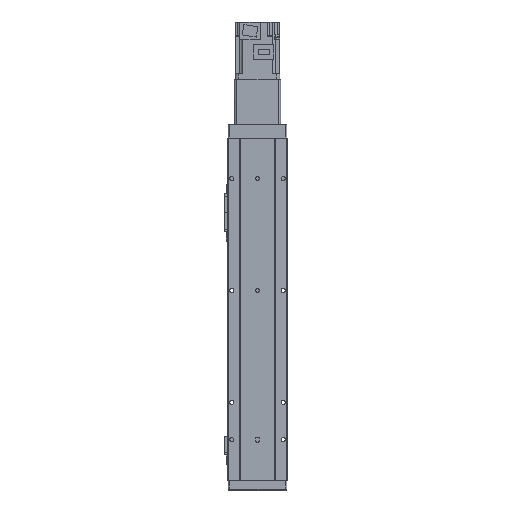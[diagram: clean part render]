
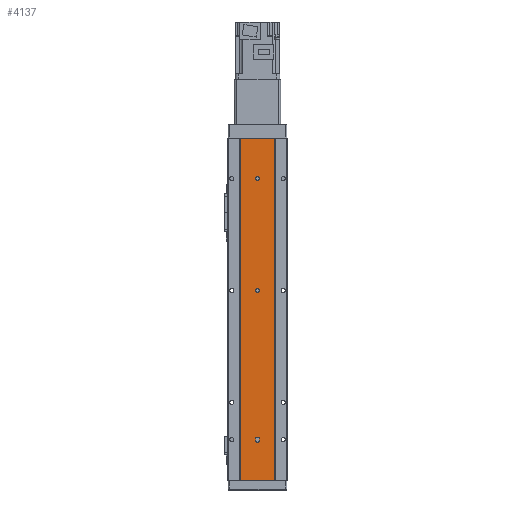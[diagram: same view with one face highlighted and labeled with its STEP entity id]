
A CAD part, front view. The second image highlights one B-rep face of the part: STEP entity #4137.
In plain terms, the highlighted planar face has unit normal (0, -1, 0).
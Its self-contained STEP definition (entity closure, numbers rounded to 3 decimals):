
#3084 = EDGE_CURVE ( 'NONE', #14005, #13973, #13460, .T. ) ;
#3087 = EDGE_CURVE ( 'NONE', #14118, #13993, #13498, .T. ) ;
#3096 = EDGE_CURVE ( 'NONE', #14130, #14128, #13491, .T. ) ;
#3098 = EDGE_CURVE ( 'NONE', #13973, #14224, #19480, .T. ) ;
#3108 = EDGE_CURVE ( 'NONE', #13993, #14005, #19520, .T. ) ;
#3117 = EDGE_CURVE ( 'NONE', #14340, #14397, #19475, .T. ) ;
#3118 = EDGE_CURVE ( 'NONE', #14346, #14376, #19462, .T. ) ;
#3132 = EDGE_CURVE ( 'NONE', #14183, #14129, #19434, .T. ) ;
#3211 = EDGE_CURVE ( 'NONE', #14128, #14130, #19670, .T. ) ;
#3226 = EDGE_CURVE ( 'NONE', #14224, #14118, #19744, .T. ) ;
#3297 = EDGE_CURVE ( 'NONE', #14129, #14183, #20034, .T. ) ;
#3447 = EDGE_CURVE ( 'NONE', #14397, #14376, #20463, .T. ) ;
#3466 = EDGE_CURVE ( 'NONE', #14340, #14346, #20508, .T. ) ;
#4137 = ADVANCED_FACE ( 'NONE', ( #18414, #18419, #18422, #18418 ), #10199, .T. ) ;
#5828 = DIRECTION ( 'NONE',  ( 1., 0., 0. ) ) ;
#5836 = DIRECTION ( 'NONE',  ( 0., -1., 0. ) ) ;
#5843 = CARTESIAN_POINT ( 'NONE',  ( 0., 0.5, -54.5 ) ) ;
#6481 = DIRECTION ( 'NONE',  ( 1., 0., 0. ) ) ;
#6484 = CARTESIAN_POINT ( 'NONE',  ( -23., 0.5, 0. ) ) ;
#6505 = CARTESIAN_POINT ( 'NONE',  ( -23., 0.5, -459. ) ) ;
#6547 = DIRECTION ( 'NONE',  ( 1., 0., 0. ) ) ;
#9222 = ORIENTED_EDGE ( 'NONE', *, *, #3108, .F. ) ;
#9233 = ORIENTED_EDGE ( 'NONE', *, *, #3297, .F. ) ;
#9239 = ORIENTED_EDGE ( 'NONE', *, *, #3447, .F. ) ;
#9250 = ORIENTED_EDGE ( 'NONE', *, *, #3096, .F. ) ;
#9261 = ORIENTED_EDGE ( 'NONE', *, *, #3098, .F. ) ;
#9266 = ORIENTED_EDGE ( 'NONE', *, *, #3226, .F. ) ;
#9279 = ORIENTED_EDGE ( 'NONE', *, *, #3211, .F. ) ;
#9329 = ORIENTED_EDGE ( 'NONE', *, *, #3118, .T. ) ;
#9332 = ORIENTED_EDGE ( 'NONE', *, *, #3084, .F. ) ;
#9361 = ORIENTED_EDGE ( 'NONE', *, *, #3132, .F. ) ;
#9440 = ORIENTED_EDGE ( 'NONE', *, *, #3466, .T. ) ;
#9446 = ORIENTED_EDGE ( 'NONE', *, *, #3087, .F. ) ;
#9457 = ORIENTED_EDGE ( 'NONE', *, *, #3117, .F. ) ;
#10167 = DIRECTION ( 'NONE',  ( 1., 0., 0. ) ) ;
#10175 = CARTESIAN_POINT ( 'NONE',  ( -23., 0.5, -459. ) ) ;
#10195 = DIRECTION ( 'NONE',  ( 0., -1., 0. ) ) ;
#10199 = PLANE ( 'NONE',  #22948 ) ;
#13460 = LINE ( 'NONE', #15105, #13483 ) ;
#13483 = VECTOR ( 'NONE', #15151, 1000. ) ;
#13491 = CIRCLE ( 'NONE', #15203, 2.5 ) ;
#13498 = LINE ( 'NONE', #15140, #13508 ) ;
#13508 = VECTOR ( 'NONE', #15130, 1000. ) ;
#13973 = VERTEX_POINT ( 'NONE', #42101 ) ;
#13993 = VERTEX_POINT ( 'NONE', #42095 ) ;
#14005 = VERTEX_POINT ( 'NONE', #42133 ) ;
#14118 = VERTEX_POINT ( 'NONE', #42207 ) ;
#14128 = VERTEX_POINT ( 'NONE', #42304 ) ;
#14129 = VERTEX_POINT ( 'NONE', #42308 ) ;
#14130 = VERTEX_POINT ( 'NONE', #42312 ) ;
#14183 = VERTEX_POINT ( 'NONE', #42255 ) ;
#14224 = VERTEX_POINT ( 'NONE', #42337 ) ;
#14340 = VERTEX_POINT ( 'NONE', #42469 ) ;
#14346 = VERTEX_POINT ( 'NONE', #42458 ) ;
#14376 = VERTEX_POINT ( 'NONE', #42474 ) ;
#14397 = VERTEX_POINT ( 'NONE', #42516 ) ;
#14711 = DIRECTION ( 'NONE',  ( 0., 0., 1. ) ) ;
#14724 = CARTESIAN_POINT ( 'NONE',  ( -23., 0.5, -459. ) ) ;
#14747 = DIRECTION ( 'NONE',  ( 0., 0., 1. ) ) ;
#14749 = CARTESIAN_POINT ( 'NONE',  ( 23., 0.5, -459. ) ) ;
#14755 = DIRECTION ( 'NONE',  ( 0., -1., 0. ) ) ;
#14758 = DIRECTION ( 'NONE',  ( 1., 0., 0. ) ) ;
#14762 = CARTESIAN_POINT ( 'NONE',  ( 0., 0.5, -54.5 ) ) ;
#15049 = DIRECTION ( 'NONE',  ( 1., 0., 0. ) ) ;
#15050 = CARTESIAN_POINT ( 'NONE',  ( 0., 0.5, -405.5 ) ) ;
#15056 = DIRECTION ( 'NONE',  ( 0., -1., 0. ) ) ;
#15057 = DIRECTION ( 'NONE',  ( 0., -1., 0. ) ) ;
#15063 = CARTESIAN_POINT ( 'NONE',  ( 0., 0.5, -403.5 ) ) ;
#15064 = DIRECTION ( 'NONE',  ( 0., -1., 0. ) ) ;
#15070 = CARTESIAN_POINT ( 'NONE',  ( 0., 0.5, -204.5 ) ) ;
#15074 = DIRECTION ( 'NONE',  ( 1., 0., 0. ) ) ;
#15077 = DIRECTION ( 'NONE',  ( 1., 0., 0. ) ) ;
#15105 = CARTESIAN_POINT ( 'NONE',  ( -2.5, 0.5, -459. ) ) ;
#15130 = DIRECTION ( 'NONE',  ( 0., 0., 1. ) ) ;
#15140 = CARTESIAN_POINT ( 'NONE',  ( 2.5, 0.5, -459. ) ) ;
#15151 = DIRECTION ( 'NONE',  ( 0., 0., -1. ) ) ;
#15184 = AXIS2_PLACEMENT_3D ( 'NONE', #14762, #14755, #14758 ) ;
#15194 = AXIS2_PLACEMENT_3D ( 'NONE', #15050, #15056, #15077 ) ;
#15203 = AXIS2_PLACEMENT_3D ( 'NONE', #15070, #15057, #15074 ) ;
#15208 = AXIS2_PLACEMENT_3D ( 'NONE', #15063, #15064, #15049 ) ;
#17600 = EDGE_LOOP ( 'NONE', ( #9250, #9279 ) ) ;
#17606 = EDGE_LOOP ( 'NONE', ( #9239, #9457, #9440, #9329 ) ) ;
#17632 = EDGE_LOOP ( 'NONE', ( #9261, #9332, #9222, #9446, #9266 ) ) ;
#17634 = EDGE_LOOP ( 'NONE', ( #9361, #9233 ) ) ;
#18414 = FACE_BOUND ( 'NONE', #17632, .T. ) ;
#18418 = FACE_OUTER_BOUND ( 'NONE', #17606, .T. ) ;
#18419 = FACE_BOUND ( 'NONE', #17600, .T. ) ;
#18422 = FACE_BOUND ( 'NONE', #17634, .T. ) ;
#19423 = VECTOR ( 'NONE', #14747, 1000. ) ;
#19434 = CIRCLE ( 'NONE', #15184, 2.5 ) ;
#19462 = LINE ( 'NONE', #14749, #19486 ) ;
#19475 = LINE ( 'NONE', #14724, #19423 ) ;
#19480 = CIRCLE ( 'NONE', #15194, 2.5 ) ;
#19486 = VECTOR ( 'NONE', #14711, 1000. ) ;
#19520 = CIRCLE ( 'NONE', #15208, 2.5 ) ;
#19670 = CIRCLE ( 'NONE', #22268, 2.5 ) ;
#19744 = CIRCLE ( 'NONE', #22214, 2.5 ) ;
#20034 = CIRCLE ( 'NONE', #22300, 2.5 ) ;
#20446 = VECTOR ( 'NONE', #6547, 1000. ) ;
#20463 = LINE ( 'NONE', #6484, #20514 ) ;
#20508 = LINE ( 'NONE', #6505, #20446 ) ;
#20514 = VECTOR ( 'NONE', #6481, 1000. ) ;
#22033 = DIRECTION ( 'NONE',  ( 0., -1., 0. ) ) ;
#22053 = DIRECTION ( 'NONE',  ( 1., 0., 0. ) ) ;
#22056 = CARTESIAN_POINT ( 'NONE',  ( 0., 0.5, -204.5 ) ) ;
#22083 = CARTESIAN_POINT ( 'NONE',  ( 0., 0.5, -405.5 ) ) ;
#22085 = DIRECTION ( 'NONE',  ( 1., 0., 0. ) ) ;
#22092 = DIRECTION ( 'NONE',  ( 0., -1., 0. ) ) ;
#22214 = AXIS2_PLACEMENT_3D ( 'NONE', #22083, #22092, #22085 ) ;
#22268 = AXIS2_PLACEMENT_3D ( 'NONE', #22056, #22033, #22053 ) ;
#22300 = AXIS2_PLACEMENT_3D ( 'NONE', #5843, #5836, #5828 ) ;
#22948 = AXIS2_PLACEMENT_3D ( 'NONE', #10175, #10195, #10167 ) ;
#42095 = CARTESIAN_POINT ( 'NONE',  ( 2.5, 0.5, -403.5 ) ) ;
#42101 = CARTESIAN_POINT ( 'NONE',  ( -2.5, 0.5, -405.5 ) ) ;
#42133 = CARTESIAN_POINT ( 'NONE',  ( -2.5, 0.5, -403.5 ) ) ;
#42207 = CARTESIAN_POINT ( 'NONE',  ( 2.5, 0.5, -405.5 ) ) ;
#42255 = CARTESIAN_POINT ( 'NONE',  ( 0., 0.5, -57. ) ) ;
#42304 = CARTESIAN_POINT ( 'NONE',  ( 0., 0.5, -202. ) ) ;
#42308 = CARTESIAN_POINT ( 'NONE',  ( 0., 0.5, -52. ) ) ;
#42312 = CARTESIAN_POINT ( 'NONE',  ( 0., 0.5, -207. ) ) ;
#42337 = CARTESIAN_POINT ( 'NONE',  ( 0., 0.5, -408. ) ) ;
#42458 = CARTESIAN_POINT ( 'NONE',  ( 23., 0.5, -459. ) ) ;
#42469 = CARTESIAN_POINT ( 'NONE',  ( -23., 0.5, -459. ) ) ;
#42474 = CARTESIAN_POINT ( 'NONE',  ( 23., 0.5, 0. ) ) ;
#42516 = CARTESIAN_POINT ( 'NONE',  ( -23., 0.5, 0. ) ) ;
